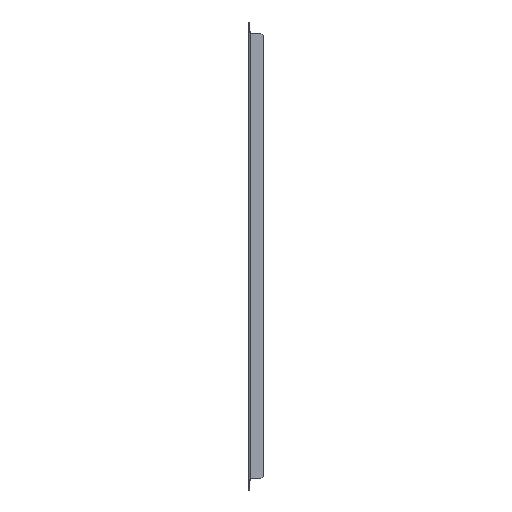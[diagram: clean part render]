
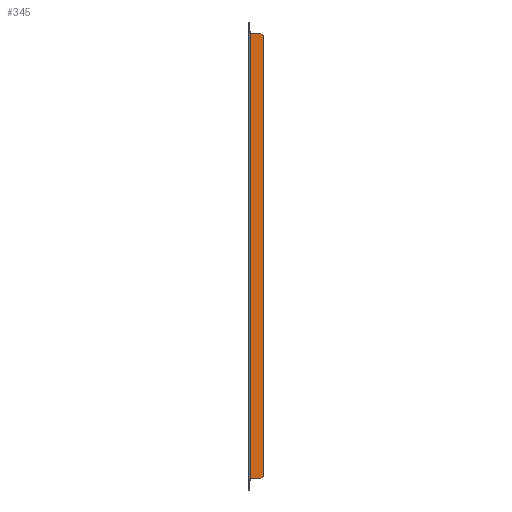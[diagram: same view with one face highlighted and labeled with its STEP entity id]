
A CAD part, left-side view. The second image highlights one B-rep face of the part: STEP entity #345.
In plain terms, the highlighted planar face has unit normal (-1, 0, 0).
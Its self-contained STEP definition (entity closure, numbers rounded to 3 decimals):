
#1 = CARTESIAN_POINT ( 'NONE',  ( -79.5, -155.725, 155.725 ) ) ;
#10 = EDGE_LOOP ( 'NONE', ( #1241, #1303, #851, #1137, #796, #1332 ) ) ;
#46 = PLANE ( 'NONE',  #603 ) ;
#55 = DIRECTION ( 'NONE',  ( 0., 0., -1. ) ) ;
#170 = VECTOR ( 'NONE', #1459, 1000. ) ;
#171 = DIRECTION ( 'NONE',  ( 0., -0.707, 0.707 ) ) ;
#183 = CARTESIAN_POINT ( 'NONE',  ( -79.5, -2.4, 0. ) ) ;
#239 = VERTEX_POINT ( 'NONE', #508 ) ;
#311 = DIRECTION ( 'NONE',  ( 0., 1., 0. ) ) ;
#345 = ADVANCED_FACE ( 'NONE', ( #1558 ), #46, .T. ) ;
#364 = DIRECTION ( 'NONE',  ( 0., 0.707, 0.707 ) ) ;
#399 = VERTEX_POINT ( 'NONE', #1258 ) ;
#453 = VERTEX_POINT ( 'NONE', #671 ) ;
#460 = EDGE_CURVE ( 'NONE', #940, #631, #1450, .T. ) ;
#508 = CARTESIAN_POINT ( 'NONE',  ( -79.5, -19., 292.45 ) ) ;
#516 = VECTOR ( 'NONE', #55, 1000. ) ;
#533 = VECTOR ( 'NONE', #1456, 1000. ) ;
#576 = CARTESIAN_POINT ( 'NONE',  ( -79.5, -2.4, -295.45 ) ) ;
#603 = AXIS2_PLACEMENT_3D ( 'NONE', #1014, #1121, #880 ) ;
#610 = CARTESIAN_POINT ( 'NONE',  ( -79.5, -2.4, 295.45 ) ) ;
#631 = VERTEX_POINT ( 'NONE', #576 ) ;
#659 = CARTESIAN_POINT ( 'NONE',  ( -79.5, -155.725, -155.725 ) ) ;
#661 = VECTOR ( 'NONE', #364, 1000. ) ;
#671 = CARTESIAN_POINT ( 'NONE',  ( -79.5, -16., 295.45 ) ) ;
#676 = VECTOR ( 'NONE', #171, 1000. ) ;
#729 = EDGE_CURVE ( 'NONE', #239, #453, #982, .T. ) ;
#751 = CARTESIAN_POINT ( 'NONE',  ( -79.5, -19., 0. ) ) ;
#796 = ORIENTED_EDGE ( 'NONE', *, *, #1368, .T. ) ;
#818 = LINE ( 'NONE', #751, #533 ) ;
#851 = ORIENTED_EDGE ( 'NONE', *, *, #862, .T. ) ;
#862 = EDGE_CURVE ( 'NONE', #399, #239, #818, .T. ) ;
#880 = DIRECTION ( 'NONE',  ( 0., -1., 0. ) ) ;
#923 = VERTEX_POINT ( 'NONE', #1348 ) ;
#940 = VERTEX_POINT ( 'NONE', #610 ) ;
#975 = CARTESIAN_POINT ( 'NONE',  ( -79.5, 0., -295.45 ) ) ;
#982 = LINE ( 'NONE', #1, #661 ) ;
#1014 = CARTESIAN_POINT ( 'NONE',  ( -79.5, 0., 0. ) ) ;
#1064 = EDGE_CURVE ( 'NONE', #631, #923, #1353, .T. ) ;
#1121 = DIRECTION ( 'NONE',  ( -1., 0., 0. ) ) ;
#1137 = ORIENTED_EDGE ( 'NONE', *, *, #729, .T. ) ;
#1241 = ORIENTED_EDGE ( 'NONE', *, *, #1064, .T. ) ;
#1243 = LINE ( 'NONE', #1382, #1372 ) ;
#1258 = CARTESIAN_POINT ( 'NONE',  ( -79.5, -19., -292.45 ) ) ;
#1303 = ORIENTED_EDGE ( 'NONE', *, *, #1373, .T. ) ;
#1332 = ORIENTED_EDGE ( 'NONE', *, *, #460, .T. ) ;
#1348 = CARTESIAN_POINT ( 'NONE',  ( -79.5, -16., -295.45 ) ) ;
#1353 = LINE ( 'NONE', #975, #170 ) ;
#1368 = EDGE_CURVE ( 'NONE', #453, #940, #1243, .T. ) ;
#1372 = VECTOR ( 'NONE', #311, 1000. ) ;
#1373 = EDGE_CURVE ( 'NONE', #923, #399, #1518, .T. ) ;
#1382 = CARTESIAN_POINT ( 'NONE',  ( -79.5, 0., 295.45 ) ) ;
#1450 = LINE ( 'NONE', #183, #516 ) ;
#1456 = DIRECTION ( 'NONE',  ( 0., 0., 1. ) ) ;
#1459 = DIRECTION ( 'NONE',  ( 0., -1., 0. ) ) ;
#1518 = LINE ( 'NONE', #659, #676 ) ;
#1558 = FACE_OUTER_BOUND ( 'NONE', #10, .T. ) ;
